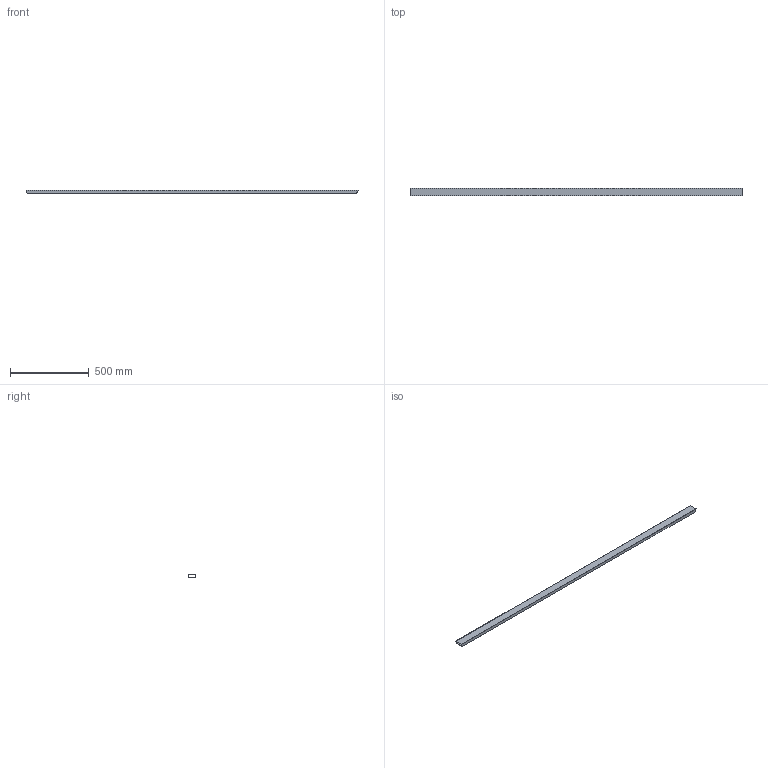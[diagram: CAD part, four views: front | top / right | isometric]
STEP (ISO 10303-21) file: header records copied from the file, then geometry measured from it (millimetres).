
FILE_DESCRIPTION(/* description */ (''),/* implementation_level */ '2;1');
FILE_NAME(/* name */ 'Pos118-Koker 50x20x2 EN 10219-2-S235JRH-1st',/* time_stamp */ '2024-08-06T13:49:48+02:00',/* author */ (''),/* organization */ (''),/* preprocessor_version */ 'ST-DEVELOPER v16.5',/* originating_system */ 'HiCAD 2024 2901.2 Build 361',/* authorisation */ '');
FILE_SCHEMA (('AUTOMOTIVE_DESIGN { 1 0 10303 214 1 1 1 1 }'));
Length unit declared in the file: millimetre
Products named in the file (1): Pos118-Koker 50x20x2 EN 10219-2-S235JRH-1st
Bounding box: 2107.54 x 50 x 20 mm (x, y, z)
Volume: 554195.9 mm3; surface area: 554768.4 mm2
Topology: 1 solids, 1 shells, 10 faces, 24 edges, 16 vertices
Faces by surface type: plane 10
Entity records: 550 total; most frequent: CARTESIAN_POINT 50, PRESENTATION_STYLE_ASSIGNMENT 49, COLOUR_RGB 49, DRAUGHTING_PRE_DEFINED_CURVE_FONT 48, CURVE_STYLE 48, OVER_RIDING_STYLED_ITEM 48, ORIENTED_EDGE 48, DIRECTION 44
